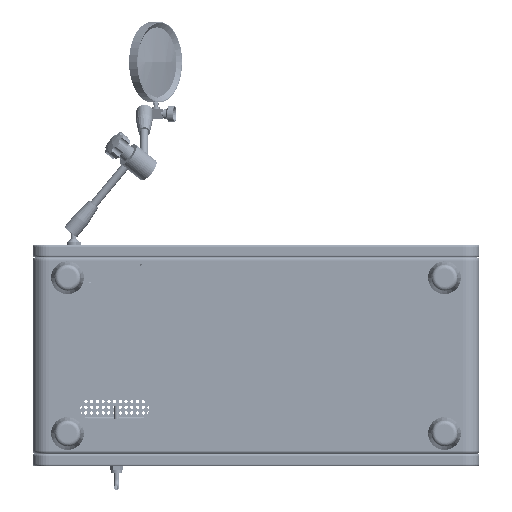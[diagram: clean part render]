
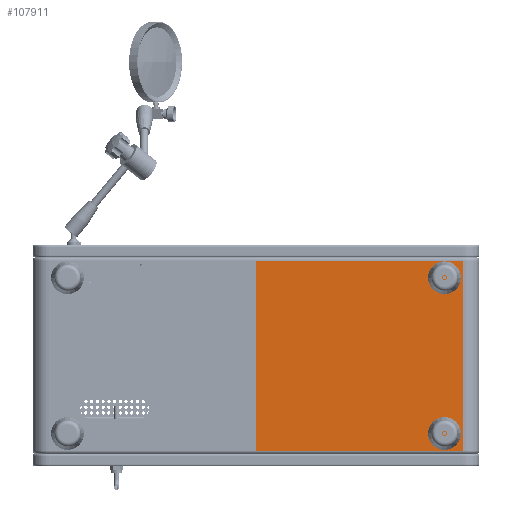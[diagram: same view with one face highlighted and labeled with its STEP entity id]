
A CAD part, front view. The second image highlights one B-rep face of the part: STEP entity #107911.
In plain terms, the highlighted planar face has unit normal (0, -1, 0).
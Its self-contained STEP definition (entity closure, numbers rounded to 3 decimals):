
#1697 = CARTESIAN_POINT ( 'NONE',  ( -18.662, -167.934, 251. ) ) ;
#2596 = CARTESIAN_POINT ( 'NONE',  ( 233.738, -167.934, 19. ) ) ;
#8731 = CARTESIAN_POINT ( 'NONE',  ( 211.238, -167.934, 40. ) ) ;
#11467 = CARTESIAN_POINT ( 'NONE',  ( 211.238, -167.934, 230. ) ) ;
#12075 = PLANE ( 'NONE',  #52640 ) ;
#14326 = AXIS2_PLACEMENT_3D ( 'NONE', #20806, #198504, #17636 ) ;
#15927 = LINE ( 'NONE', #213099, #77615 ) ;
#17636 = DIRECTION ( 'NONE',  ( 0., 0., -1. ) ) ;
#19011 = LINE ( 'NONE', #1697, #127998 ) ;
#20806 = CARTESIAN_POINT ( 'NONE',  ( 211.238, -167.934, 40. ) ) ;
#25148 = AXIS2_PLACEMENT_3D ( 'NONE', #131006, #45527, #97498 ) ;
#27370 = AXIS2_PLACEMENT_3D ( 'NONE', #11467, #196596, #146789 ) ;
#37015 = VERTEX_POINT ( 'NONE', #175676 ) ;
#41411 = VECTOR ( 'NONE', #204493, 1000. ) ;
#42923 = EDGE_CURVE ( 'NONE', #96456, #171655, #173383, .T. ) ;
#45527 = DIRECTION ( 'NONE',  ( 0., -1., 0. ) ) ;
#46669 = FACE_OUTER_BOUND ( 'NONE', #126943, .T. ) ;
#52640 = AXIS2_PLACEMENT_3D ( 'NONE', #126824, #192913, #100454 ) ;
#54294 = CARTESIAN_POINT ( 'NONE',  ( 211.238, -167.934, 37.9 ) ) ;
#57419 = DIRECTION ( 'NONE',  ( 0., 0., -1. ) ) ;
#60784 = FACE_BOUND ( 'NONE', #110190, .T. ) ;
#69188 = CARTESIAN_POINT ( 'NONE',  ( 233.738, -167.934, 251. ) ) ;
#72213 = VECTOR ( 'NONE', #84448, 1000. ) ;
#75797 = CIRCLE ( 'NONE', #27370, 2.1 ) ;
#77615 = VECTOR ( 'NONE', #113358, 1000. ) ;
#78425 = AXIS2_PLACEMENT_3D ( 'NONE', #8731, #187467, #57419 ) ;
#80337 = FACE_BOUND ( 'NONE', #139848, .T. ) ;
#82128 = ORIENTED_EDGE ( 'NONE', *, *, #164448, .F. ) ;
#82324 = EDGE_CURVE ( 'NONE', #121359, #202086, #128884, .T. ) ;
#84448 = DIRECTION ( 'NONE',  ( 1., 0., 0. ) ) ;
#90260 = ORIENTED_EDGE ( 'NONE', *, *, #82324, .F. ) ;
#91762 = CARTESIAN_POINT ( 'NONE',  ( 233.738, -167.934, 251. ) ) ;
#96456 = VERTEX_POINT ( 'NONE', #54294 ) ;
#97498 = DIRECTION ( 'NONE',  ( 0., 0., -1. ) ) ;
#98913 = EDGE_CURVE ( 'NONE', #181857, #37015, #19011, .T. ) ;
#100454 = DIRECTION ( 'NONE',  ( 1., 0., 0. ) ) ;
#100640 = CARTESIAN_POINT ( 'NONE',  ( 233.738, -167.934, 19. ) ) ;
#101838 = CARTESIAN_POINT ( 'NONE',  ( 211.238, -167.934, 42.1 ) ) ;
#105113 = ORIENTED_EDGE ( 'NONE', *, *, #203733, .F. ) ;
#107911 = ADVANCED_FACE ( 'NONE', ( #60784, #80337, #46669 ), #12075, .F. ) ;
#110190 = EDGE_LOOP ( 'NONE', ( #211667, #105113 ) ) ;
#113358 = DIRECTION ( 'NONE',  ( 0., 0., -1. ) ) ;
#115567 = ORIENTED_EDGE ( 'NONE', *, *, #98913, .T. ) ;
#120062 = LINE ( 'NONE', #100640, #72213 ) ;
#121359 = VERTEX_POINT ( 'NONE', #198502 ) ;
#122557 = ORIENTED_EDGE ( 'NONE', *, *, #173717, .F. ) ;
#126824 = CARTESIAN_POINT ( 'NONE',  ( 233.738, -167.934, 251. ) ) ;
#126943 = EDGE_LOOP ( 'NONE', ( #155855, #122557, #82128, #115567 ) ) ;
#127998 = VECTOR ( 'NONE', #180447, 1000. ) ;
#128884 = CIRCLE ( 'NONE', #25148, 2.1 ) ;
#131006 = CARTESIAN_POINT ( 'NONE',  ( 211.238, -167.934, 230. ) ) ;
#131214 = EDGE_CURVE ( 'NONE', #37015, #182827, #120062, .T. ) ;
#131971 = EDGE_CURVE ( 'NONE', #202086, #121359, #75797, .T. ) ;
#139848 = EDGE_LOOP ( 'NONE', ( #90260, #203508 ) ) ;
#140668 = CIRCLE ( 'NONE', #78425, 2.1 ) ;
#146789 = DIRECTION ( 'NONE',  ( 0., 0., -1. ) ) ;
#148280 = CARTESIAN_POINT ( 'NONE',  ( -18.662, -167.934, 251. ) ) ;
#155715 = LINE ( 'NONE', #91762, #41411 ) ;
#155855 = ORIENTED_EDGE ( 'NONE', *, *, #131214, .T. ) ;
#164448 = EDGE_CURVE ( 'NONE', #181857, #165464, #155715, .T. ) ;
#165464 = VERTEX_POINT ( 'NONE', #69188 ) ;
#171655 = VERTEX_POINT ( 'NONE', #101838 ) ;
#173383 = CIRCLE ( 'NONE', #14326, 2.1 ) ;
#173717 = EDGE_CURVE ( 'NONE', #165464, #182827, #15927, .T. ) ;
#175676 = CARTESIAN_POINT ( 'NONE',  ( -18.662, -167.934, 19. ) ) ;
#180447 = DIRECTION ( 'NONE',  ( 0., 0., -1. ) ) ;
#181857 = VERTEX_POINT ( 'NONE', #148280 ) ;
#182827 = VERTEX_POINT ( 'NONE', #2596 ) ;
#187467 = DIRECTION ( 'NONE',  ( 0., -1., 0. ) ) ;
#191549 = CARTESIAN_POINT ( 'NONE',  ( 211.238, -167.934, 232.1 ) ) ;
#192913 = DIRECTION ( 'NONE',  ( 0., 1., 0. ) ) ;
#196596 = DIRECTION ( 'NONE',  ( 0., -1., 0. ) ) ;
#198502 = CARTESIAN_POINT ( 'NONE',  ( 211.238, -167.934, 227.9 ) ) ;
#198504 = DIRECTION ( 'NONE',  ( 0., -1., 0. ) ) ;
#202086 = VERTEX_POINT ( 'NONE', #191549 ) ;
#203508 = ORIENTED_EDGE ( 'NONE', *, *, #131971, .F. ) ;
#203733 = EDGE_CURVE ( 'NONE', #171655, #96456, #140668, .T. ) ;
#204493 = DIRECTION ( 'NONE',  ( 1., 0., 0. ) ) ;
#211667 = ORIENTED_EDGE ( 'NONE', *, *, #42923, .F. ) ;
#213099 = CARTESIAN_POINT ( 'NONE',  ( 233.738, -167.934, 251. ) ) ;
